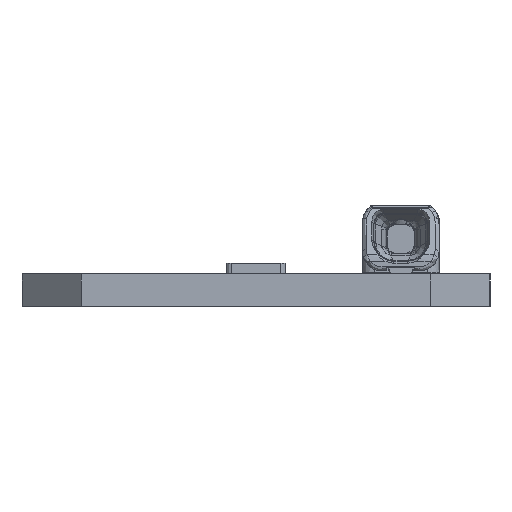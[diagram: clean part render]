
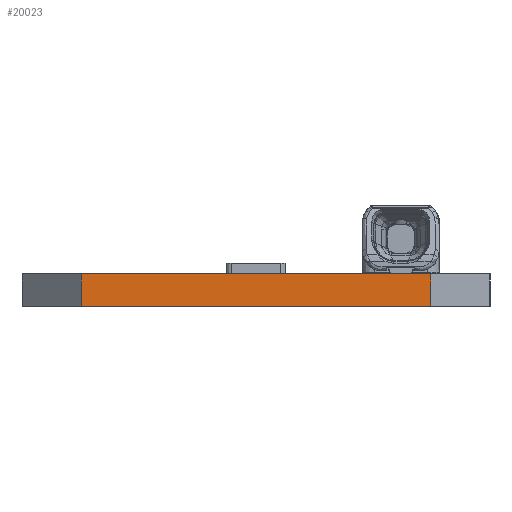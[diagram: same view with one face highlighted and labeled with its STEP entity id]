
A CAD part, left-side view. The second image highlights one B-rep face of the part: STEP entity #20023.
In plain terms, the highlighted planar face has unit normal (-1, 0, 0).
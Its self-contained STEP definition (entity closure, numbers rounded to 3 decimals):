
#2229=DIRECTION('',(0.,1.,0.));
#2230=VECTOR('',#2229,17.6);
#2231=CARTESIAN_POINT('',(-279.5,-8.8,0.));
#2232=LINE('',#2231,#2230);
#2754=DIRECTION('',(0.,0.,1.));
#2755=VECTOR('',#2754,1.65);
#2756=CARTESIAN_POINT('',(-279.5,8.8,0.));
#2757=LINE('',#2756,#2755);
#2761=DIRECTION('',(0.,0.,1.));
#2762=VECTOR('',#2761,1.65);
#2763=CARTESIAN_POINT('',(-279.5,-8.8,0.));
#2764=LINE('',#2763,#2762);
#2768=DIRECTION('',(0.,1.,0.));
#2769=VECTOR('',#2768,17.6);
#2770=CARTESIAN_POINT('',(-279.5,-8.8,1.65));
#2771=LINE('',#2770,#2769);
#16416=CARTESIAN_POINT('',(-279.5,-8.8,1.65));
#16417=CARTESIAN_POINT('',(-279.5,8.8,1.65));
#16418=VERTEX_POINT('',#16416);
#16419=VERTEX_POINT('',#16417);
#16512=CARTESIAN_POINT('',(-279.5,8.8,0.));
#16513=VERTEX_POINT('',#16512);
#16542=CARTESIAN_POINT('',(-279.5,-8.8,0.));
#16543=VERTEX_POINT('',#16542);
#20011=CARTESIAN_POINT('',(-279.5,8.8,1.65));
#20012=DIRECTION('',(-1.,0.,0.));
#20013=DIRECTION('',(0.,0.,1.));
#20014=AXIS2_PLACEMENT_3D('',#20011,#20012,#20013);
#20015=PLANE('',#20014);
#20017=ORIENTED_EDGE('',*,*,#20016,.F.);
#20018=ORIENTED_EDGE('',*,*,#19525,.T.);
#20019=ORIENTED_EDGE('',*,*,#19996,.T.);
#20020=ORIENTED_EDGE('',*,*,#18829,.F.);
#20021=EDGE_LOOP('',(#20017,#20018,#20019,#20020));
#20022=FACE_OUTER_BOUND('',#20021,.F.);
#18829=EDGE_CURVE('',#16418,#16419,#2771,.T.);
#19525=EDGE_CURVE('',#16543,#16513,#2232,.T.);
#19996=EDGE_CURVE('',#16513,#16419,#2757,.T.);
#20016=EDGE_CURVE('',#16543,#16418,#2764,.T.);
#20023=ADVANCED_FACE('',(#20022),#20015,.T.);
